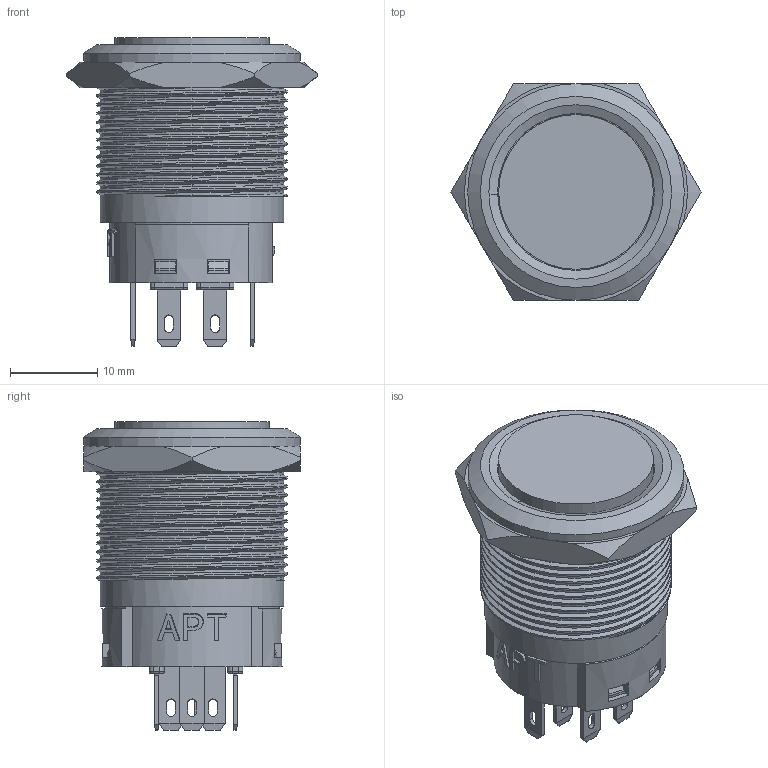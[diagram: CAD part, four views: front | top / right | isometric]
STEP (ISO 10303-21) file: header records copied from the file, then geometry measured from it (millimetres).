
FILE_DESCRIPTION(/* description */ (''),/* implementation_level */ '2;1');
FILE_NAME(/* name */ 'FM22N-SHP-22.prt.stp',/* time_stamp */ '2020-08-04T17:25:50+08:00',/* author */ (''),/* organization */ (''),/* preprocessor_version */ 'ST-DEVELOPER v16.7',/* originating_system */ 'SIEMENS PLM Software NX 12.0',/* authorisation */ '');
FILE_SCHEMA (('AUTOMOTIVE_DESIGN { 1 0 10303 214 3 1 1 1 }'));
Products named in the file (1): Admi4F983F75j3mi
Bounding box: 28.64 x 24.8 x 35.35 mm (x, y, z)
Volume: 5243.7 mm3; surface area: 9466.6 mm2
Topology: 4 solids, 8 shells, 1362 faces, 4022 edges, 2621 vertices
Faces by surface type: plane 935, cylinder 250, extrusion 82, torus 47, cone 42, bspline 6
Full cylindrical faces by diameter (mm): 1.2 x4, 2 x3, 10.8 x1, 11.2 x1, 11.25 x1, 13.75 x1, 14.45 x1, 17.7 x1, 17.95 x1, 20.2 x1, 21 x13, 24.8 x1
Entity records: 57268 total; most frequent: CARTESIAN_POINT 16336, ORIENTED_EDGE 7892, DIRECTION 6861, EDGE_CURVE 3946, VECTOR 2973, LINE 2891, VERTEX_POINT 2582, AXIS2_PLACEMENT_3D 1944
